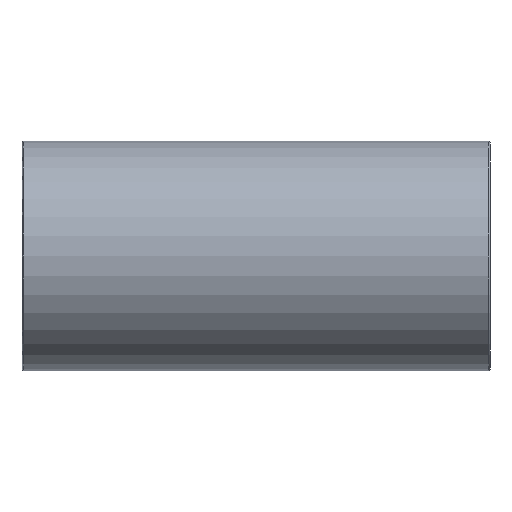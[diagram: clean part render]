
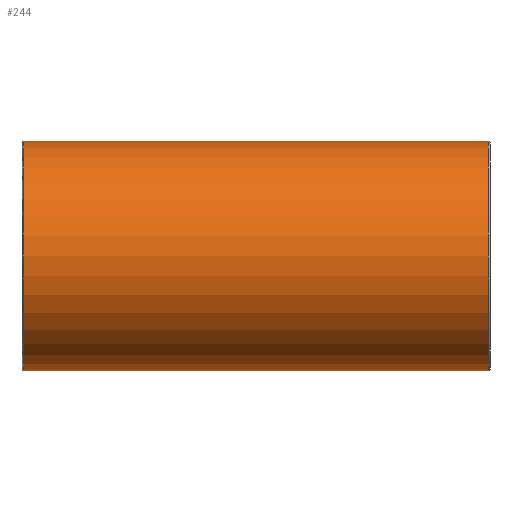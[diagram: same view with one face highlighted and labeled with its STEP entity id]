
A CAD part, front view. The second image highlights one B-rep face of the part: STEP entity #244.
In plain terms, the highlighted cylindrical face has radius 13.5 mm (diameter 27 mm), a full revolution.
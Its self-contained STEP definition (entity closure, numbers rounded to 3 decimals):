
#28=ELLIPSE('',#270,19.092,13.5);
#29=ELLIPSE('',#271,19.092,13.5);
#32=FACE_BOUND('',#77,.T.);
#33=FACE_BOUND('',#78,.T.);
#55=FACE_OUTER_BOUND('',#76,.T.);
#76=EDGE_LOOP('',(#188));
#77=EDGE_LOOP('',(#189));
#78=EDGE_LOOP('',(#190,#191));
#120=CIRCLE('',#268,13.5);
#121=CIRCLE('',#269,13.5);
#140=VERTEX_POINT('',#406);
#141=VERTEX_POINT('',#408);
#142=VERTEX_POINT('',#410);
#143=VERTEX_POINT('',#411);
#164=EDGE_CURVE('',#140,#140,#120,.T.);
#165=EDGE_CURVE('',#141,#141,#121,.T.);
#166=EDGE_CURVE('',#142,#143,#28,.T.);
#167=EDGE_CURVE('',#143,#142,#29,.T.);
#188=ORIENTED_EDGE('',*,*,#164,.F.);
#189=ORIENTED_EDGE('',*,*,#165,.F.);
#190=ORIENTED_EDGE('',*,*,#166,.F.);
#191=ORIENTED_EDGE('',*,*,#167,.F.);
#236=CYLINDRICAL_SURFACE('',#267,13.5);
#244=ADVANCED_FACE('',(#55,#32,#33),#236,.T.);
#267=AXIS2_PLACEMENT_3D('',#405,#314,#315);
#268=AXIS2_PLACEMENT_3D('',#407,#316,#317);
#269=AXIS2_PLACEMENT_3D('',#409,#318,#319);
#270=AXIS2_PLACEMENT_3D('',#412,#320,#321);
#271=AXIS2_PLACEMENT_3D('',#413,#322,#323);
#314=DIRECTION('center_axis',(1.,0.,0.));
#315=DIRECTION('ref_axis',(0.,1.,0.));
#316=DIRECTION('center_axis',(-1.,0.,0.));
#317=DIRECTION('ref_axis',(0.,-1.,0.));
#318=DIRECTION('center_axis',(1.,0.,0.));
#319=DIRECTION('ref_axis',(0.,-1.,0.));
#320=DIRECTION('center_axis',(-0.707,0.707,0.));
#321=DIRECTION('ref_axis',(0.707,0.707,0.));
#322=DIRECTION('center_axis',(0.707,0.707,0.));
#323=DIRECTION('ref_axis',(-0.707,0.707,0.));
#405=CARTESIAN_POINT('Origin',(0.,0.,
0.));
#406=CARTESIAN_POINT('',(-27.314,13.5,0.));
#407=CARTESIAN_POINT('Origin',(-27.314,0.,0.));
#408=CARTESIAN_POINT('',(27.314,13.5,0.));
#409=CARTESIAN_POINT('Origin',(27.314,0.,0.));
#410=CARTESIAN_POINT('',(0.,0.,13.5));
#411=CARTESIAN_POINT('',(0.,0.,-13.5));
#412=CARTESIAN_POINT('Origin',(0.,0.,
0.));
#413=CARTESIAN_POINT('Origin',(0.,0.,0.));
